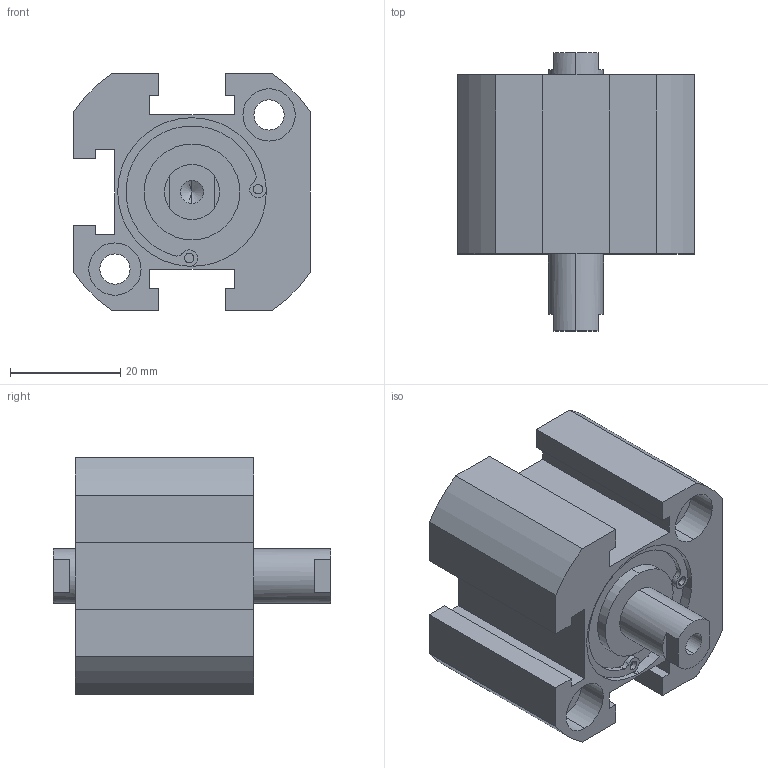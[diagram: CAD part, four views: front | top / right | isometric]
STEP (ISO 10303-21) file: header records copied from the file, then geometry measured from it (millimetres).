
FILE_DESCRIPTION (( 'STEP AP203' ), '1' );
FILE_NAME ('XC#7-25-10.STEP', '2016-05-23T08:23:14', ( '' ), ( '' ), 'SwSTEP 2.0', 'SolidWorks 2014', '' );
FILE_SCHEMA (( 'CONFIG_CONTROL_DESIGN' ));
Length unit declared in the file: millimetre
Products named in the file (1): XC#7-25-10
Bounding box: 43 x 50.5 x 43 mm (x, y, z)
Volume: 44303.8 mm3; surface area: 13318.1 mm2
Topology: 1 solids, 1 shells, 127 faces, 321 edges, 206 vertices
Faces by surface type: cylinder 65, plane 54, cone 8
Entity records: 3886 total; most frequent: DIRECTION 707, CARTESIAN_POINT 647, ORIENTED_EDGE 626, EDGE_CURVE 313, AXIS2_PLACEMENT_3D 266, VERTEX_POINT 206, LINE 175, VECTOR 175
